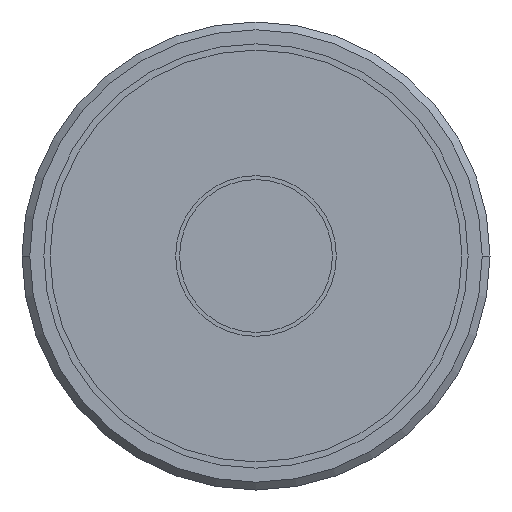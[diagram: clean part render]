
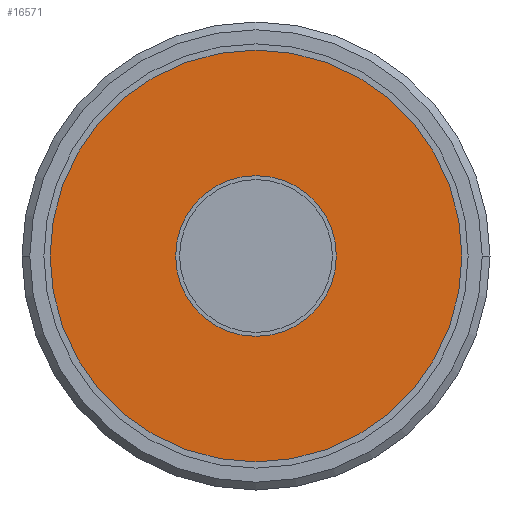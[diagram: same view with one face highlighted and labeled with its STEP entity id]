
A CAD part, left-side view. The second image highlights one B-rep face of the part: STEP entity #16571.
In plain terms, the highlighted planar face has unit normal (-1, 0, 0).
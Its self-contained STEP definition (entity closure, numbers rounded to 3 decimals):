
#48=CARTESIAN_POINT('',(0.,0.,0.));
#49=DIRECTION('',(-1.,0.,0.));
#50=DIRECTION('',(0.,0.,-1.));
#51=AXIS2_PLACEMENT_3D('',#48,#49,#50);
#56=CARTESIAN_POINT('',(0.,0.,0.));
#57=DIRECTION('',(-1.,0.,0.));
#58=DIRECTION('',(0.,0.,1.));
#59=AXIS2_PLACEMENT_3D('',#56,#57,#58);
#64=CARTESIAN_POINT('',(0.,0.,0.));
#65=DIRECTION('',(-1.,0.,0.));
#66=DIRECTION('',(0.,0.,1.));
#67=AXIS2_PLACEMENT_3D('',#64,#65,#66);
#72=CARTESIAN_POINT('',(0.,0.,0.));
#73=DIRECTION('',(-1.,0.,0.));
#74=DIRECTION('',(0.,0.,-1.));
#75=AXIS2_PLACEMENT_3D('',#72,#73,#74);
#14842=CARTESIAN_POINT('',(0.,0.,-5.15));
#14843=CARTESIAN_POINT('',(0.,0.,5.15));
#14844=VERTEX_POINT('',#14842);
#14845=VERTEX_POINT('',#14843);
#14846=CARTESIAN_POINT('',(0.,0.,13.2));
#14847=CARTESIAN_POINT('',(0.,0.,-13.2));
#14848=VERTEX_POINT('',#14846);
#14849=VERTEX_POINT('',#14847);
#16554=CARTESIAN_POINT('',(0.,0.,0.));
#16555=DIRECTION('',(1.,0.,0.));
#16556=DIRECTION('',(0.,-1.,0.));
#16557=AXIS2_PLACEMENT_3D('',#16554,#16555,#16556);
#16558=PLANE('',#16557);
#16560=ORIENTED_EDGE('',*,*,#16559,.F.);
#16562=ORIENTED_EDGE('',*,*,#16561,.F.);
#16563=EDGE_LOOP('',(#16560,#16562));
#16564=FACE_OUTER_BOUND('',#16563,.F.);
#16566=ORIENTED_EDGE('',*,*,#16565,.T.);
#16568=ORIENTED_EDGE('',*,*,#16567,.T.);
#16569=EDGE_LOOP('',(#16566,#16568));
#16570=FACE_BOUND('',#16569,.F.);
#16571=ADVANCED_FACE('',(#16564,#16570),#16558,.F.);
#52=CIRCLE('',#51,5.15);
#60=CIRCLE('',#59,5.15);
#68=CIRCLE('',#67,13.2);
#76=CIRCLE('',#75,13.2);
#16559=EDGE_CURVE('',#14848,#14849,#68,.T.);
#16561=EDGE_CURVE('',#14849,#14848,#76,.T.);
#16565=EDGE_CURVE('',#14844,#14845,#52,.T.);
#16567=EDGE_CURVE('',#14845,#14844,#60,.T.);
